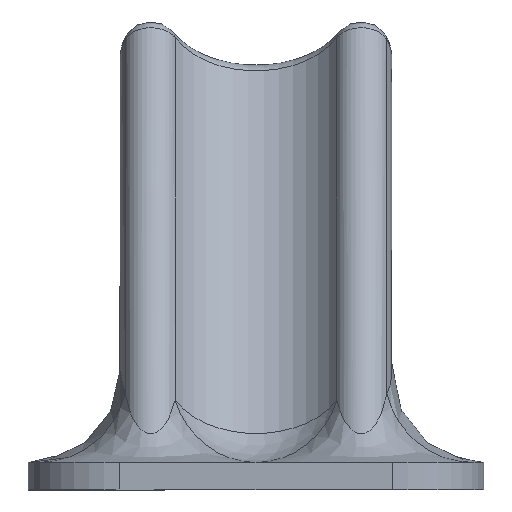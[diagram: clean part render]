
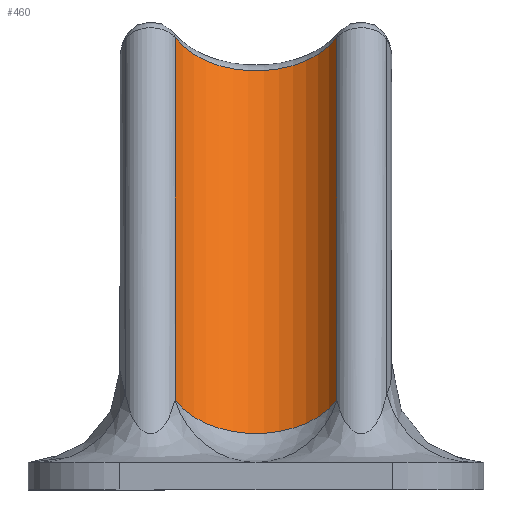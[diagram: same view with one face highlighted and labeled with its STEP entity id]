
A CAD part, front view. The second image highlights one B-rep face of the part: STEP entity #460.
In plain terms, the highlighted cylindrical face has radius 10 mm (diameter 20 mm), a partial arc.
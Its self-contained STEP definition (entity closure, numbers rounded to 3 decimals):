
#61=FACE_OUTER_BOUND('',#91,.T.);
#91=EDGE_LOOP('',(#364,#365,#366,#367));
#122=LINE('',#830,#146);
#123=LINE('',#834,#147);
#146=VECTOR('',#647,54.251);
#147=VECTOR('',#652,54.251);
#163=CIRCLE('',#497,10.);
#180=CIRCLE('',#522,10.);
#208=VERTEX_POINT('',#760);
#209=VERTEX_POINT('',#762);
#221=VERTEX_POINT('',#829);
#222=VERTEX_POINT('',#833);
#254=EDGE_CURVE('',#208,#209,#163,.T.);
#274=EDGE_CURVE('',#209,#221,#122,.T.);
#276=EDGE_CURVE('',#222,#208,#123,.T.);
#277=EDGE_CURVE('',#221,#222,#180,.T.);
#364=ORIENTED_EDGE('',*,*,#254,.F.);
#365=ORIENTED_EDGE('',*,*,#276,.F.);
#366=ORIENTED_EDGE('',*,*,#277,.F.);
#367=ORIENTED_EDGE('',*,*,#274,.F.);
#440=CYLINDRICAL_SURFACE('',#521,10.);
#460=ADVANCED_FACE('',(#61),#440,.F.);
#497=AXIS2_PLACEMENT_3D('',#763,#599,#600);
#521=AXIS2_PLACEMENT_3D('',#832,#650,#651);
#522=AXIS2_PLACEMENT_3D('',#835,#653,#654);
#599=DIRECTION('center_axis',(0.,-0.686,-0.727));
#600=DIRECTION('ref_axis',(0.,0.727,-0.686));
#647=DIRECTION('',(0.,-0.686,-0.727));
#650=DIRECTION('center_axis',(0.,-0.686,-0.727));
#651=DIRECTION('ref_axis',(0.998,0.048,-0.045));
#652=DIRECTION('',(0.,0.686,0.727));
#653=DIRECTION('center_axis',(0.,0.686,0.727));
#654=DIRECTION('ref_axis',(0.998,0.048,-0.045));
#760=CARTESIAN_POINT('',(-58.807,63.112,39.208));
#762=CARTESIAN_POINT('',(-41.193,63.112,39.208));
#763=CARTESIAN_POINT('Origin',(-50.,59.667,42.459));
#829=CARTESIAN_POINT('',(-41.193,25.881,-0.251));
#830=CARTESIAN_POINT('',(-41.193,16.445,-10.251));
#832=CARTESIAN_POINT('Origin',(-50.,61.04,43.914));
#833=CARTESIAN_POINT('',(-58.807,25.881,-0.251));
#834=CARTESIAN_POINT('',(-58.807,16.445,-10.251));
#835=CARTESIAN_POINT('Origin',(-50.,22.436,3.));
